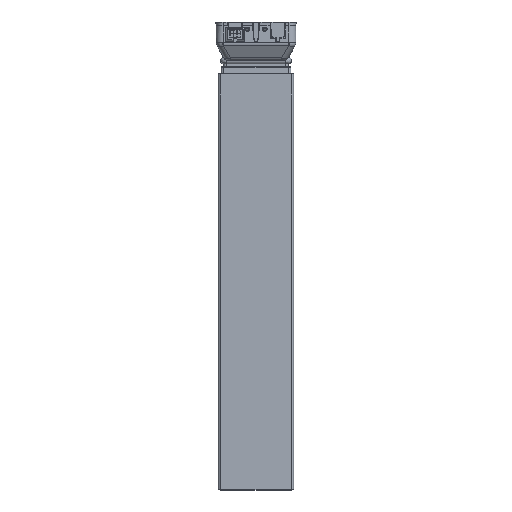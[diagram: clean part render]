
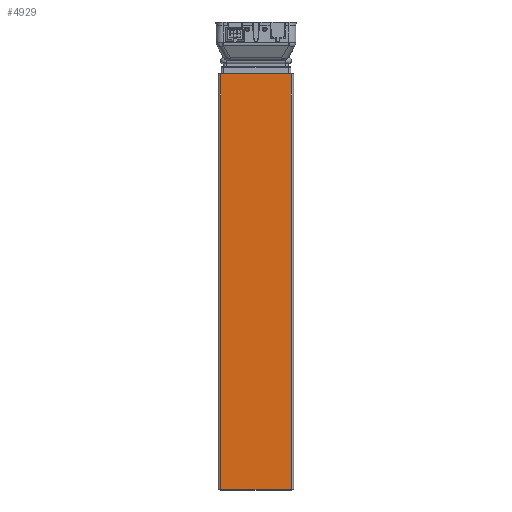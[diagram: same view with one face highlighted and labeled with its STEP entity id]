
A CAD part, top view. The second image highlights one B-rep face of the part: STEP entity #4929.
In plain terms, the highlighted planar face has unit normal (0, 0, 1).
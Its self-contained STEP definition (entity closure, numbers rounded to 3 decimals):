
#777=DIRECTION('',(-1.,0.,0.));
#778=VECTOR('',#777,84.);
#779=CARTESIAN_POINT('',(42.,0.,30.));
#780=LINE('',#779,#778);
#786=DIRECTION('',(-1.,0.,0.));
#787=VECTOR('',#786,84.);
#788=CARTESIAN_POINT('',(42.,498.,30.));
#789=LINE('',#788,#787);
#833=DIRECTION('',(0.,1.,0.));
#834=VECTOR('',#833,498.);
#835=CARTESIAN_POINT('',(42.,0.,30.));
#836=LINE('',#835,#834);
#869=DIRECTION('',(0.,-1.,0.));
#870=VECTOR('',#869,498.);
#871=CARTESIAN_POINT('',(-42.,498.,30.));
#872=LINE('',#871,#870);
#4014=CARTESIAN_POINT('',(42.,498.,30.));
#4016=VERTEX_POINT('',#4014);
#4017=CARTESIAN_POINT('',(-42.,498.,30.));
#4018=VERTEX_POINT('',#4017);
#4033=CARTESIAN_POINT('',(42.,0.,30.));
#4034=VERTEX_POINT('',#4033);
#4037=CARTESIAN_POINT('',(-42.,0.,30.));
#4038=VERTEX_POINT('',#4037);
#4915=CARTESIAN_POINT('',(42.,0.,30.));
#4916=DIRECTION('',(0.,0.,1.));
#4917=DIRECTION('',(-1.,0.,0.));
#4918=AXIS2_PLACEMENT_3D('',#4915,#4916,#4917);
#4919=PLANE('',#4918);
#4921=ORIENTED_EDGE('',*,*,#4920,.F.);
#4923=ORIENTED_EDGE('',*,*,#4922,.F.);
#4924=ORIENTED_EDGE('',*,*,#4886,.T.);
#4926=ORIENTED_EDGE('',*,*,#4925,.F.);
#4927=EDGE_LOOP('',(#4921,#4923,#4924,#4926));
#4928=FACE_OUTER_BOUND('',#4927,.F.);
#4886=EDGE_CURVE('',#4034,#4038,#780,.T.);
#4920=EDGE_CURVE('',#4016,#4018,#789,.T.);
#4922=EDGE_CURVE('',#4034,#4016,#836,.T.);
#4925=EDGE_CURVE('',#4018,#4038,#872,.T.);
#4929=ADVANCED_FACE('',(#4928),#4919,.T.);
